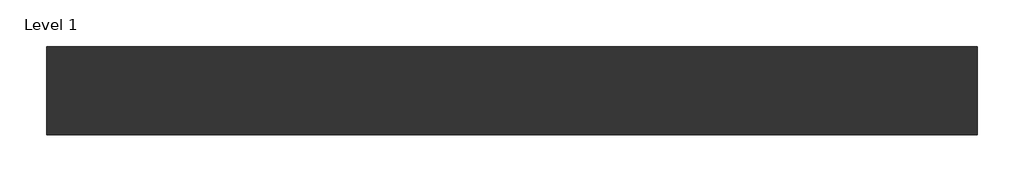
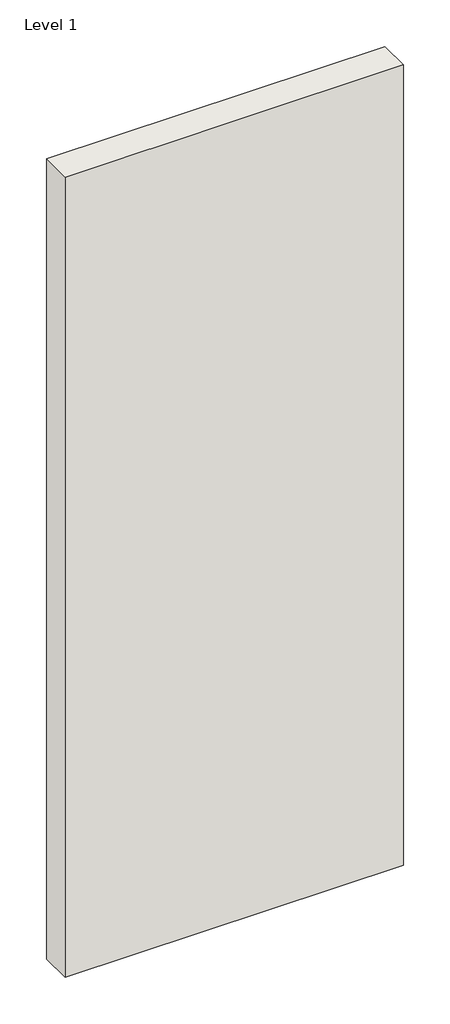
# One storey: 1 wall.
"""IFC4 building model written with IfcOpenShell, lengths in millimetres."""

from ifc_helpers import new_model, si_unit, origin, origin_with_axes, place, context, project, spatial, polyline, outline, extrude, element, save

model = new_model("IFC4")

# Units and contexts
model_context = context("Model", 3, world=origin())
ifc_project = project(units=[si_unit("LENGTHUNIT", "METRE", prefix="MILLI")], contexts=[model_context])

# Site, building, storey
site = spatial("IfcSite", under=ifc_project)
building = spatial("IfcBuilding", under=site)
storey = spatial("IfcBuildingStorey", under=building, Name="Level 1", Elevation=0.0)

# Wall
placement = place(None, origin())
element("IfcWall", 1, ObjectType="RIGIPS - 3.35.02 - EI 60, REI 60 - 4000 (1)", at=placement, inside=storey, context=model_context, shape_type="SweptSolid", body=[
    extrude(outline(polyline([(1000.0, -47.5), (0.0, -47.5), (0.0, 47.5), (1000.0, 47.5), (1000.0, -47.5)])), origin_with_axes(), (0.0, 0.0, 1.0), 2500.0),
])

save(model, "model.ifc")
